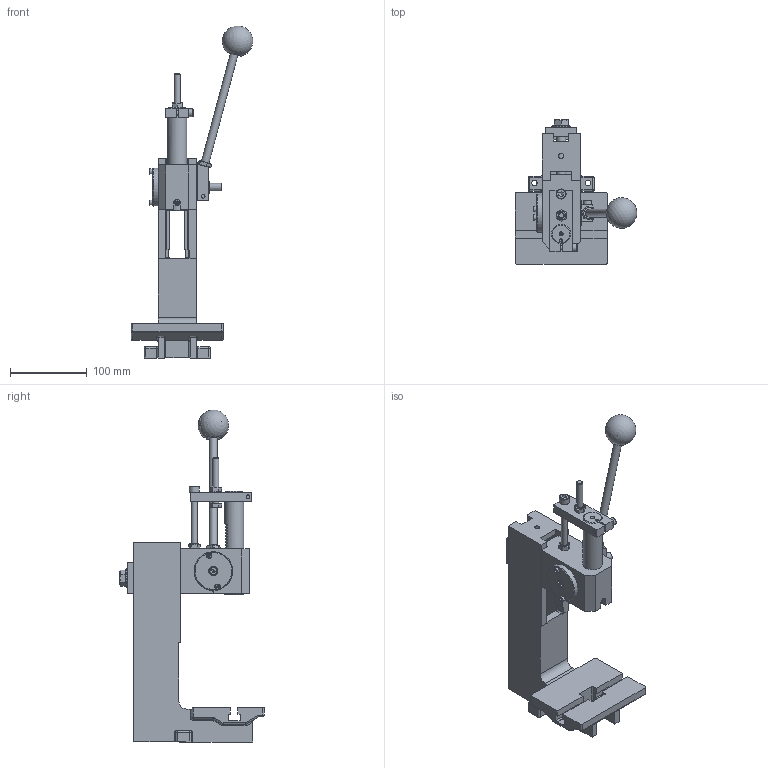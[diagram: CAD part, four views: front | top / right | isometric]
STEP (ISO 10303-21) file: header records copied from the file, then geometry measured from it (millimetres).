
FILE_DESCRIPTION(/* description */ (''),/* implementation_level */ '2;1');
FILE_NAME(/* name */ 'P:\Transfer Test\Pressen HZP\HZP 2kN\HZP 02kN Hub54 G0100 ANR18780.stp',/* time_stamp */ '2021-02-01T15:21:47+01:00',/* author */ ('gsp'),/* organization */ (''),/* preprocessor_version */ 'ST-DEVELOPER v18',/* originating_system */ 'Autodesk Inventor 2020',/* authorisation */ '');
FILE_SCHEMA (('AUTOMOTIVE_DESIGN { 1 0 10303 214 3 1 1 }'));
Length unit declared in the file: millimetre
Products named in the file (7): HZP 02kN Hub54 G0100 ANR18780; Ständereinheit_G0100_ANR17008; Spannplatte G0100; Führungseinheit_HZP_02kN_Hub54_G0100_ANR18797; Führungseinheit_HZP_G0100_ohne_Schlitten_ANr118797; ZAS ANR18782 u ASB ANR18789; Handhebel_HZP_G0200_ANR23753
Assembly tree (6 placements, depth 3):
  HZP 02kN Hub54 G0100 ANR18780
    Ständereinheit_G0100_ANR17008
    Spannplatte G0100
    Führungseinheit_HZP_02kN_Hub54_G0100_ANR18797
      Führungseinheit_HZP_G0100_ohne_Schlitten_ANr118797
      ZAS ANR18782 u ASB ANR18789
      Handhebel_HZP_G0200_ANR23753
Bounding box: 158.69 x 188 x 433.33 mm (x, y, z)
Volume: 1010850.1 mm3; surface area: 233132.1 mm2
Topology: 5 solids, 15 shells, 768 faces, 2040 edges, 1314 vertices
Faces by surface type: plane 416, cylinder 241, cone 69, sphere 19, torus 15, bspline 8
Full cylindrical faces by diameter (mm): 2 x4, 2.5 x1, 3.242 x3, 4 x4, 4.3 x2, 4.5 x2, 4.917 x5, 6 x3, 6.6 x2, 6.647 x2, 7 x6, 8 x3, 8.376 x2, 10 x5, 10.106 x1, 11.63 x1, 12 x3, 13 x1, 16 x2, 16.5 x3, 16.63 x1, 24 x1, 25 x2, 32 x2, 37 x1, 50 x1
Entity records: 24754 total; most frequent: CARTESIAN_POINT 4637, DIRECTION 4228, ORIENTED_EDGE 3980, EDGE_CURVE 1990, AXIS2_PLACEMENT_3D 1587, VERTEX_POINT 1314, LINE 1054, VECTOR 1054
